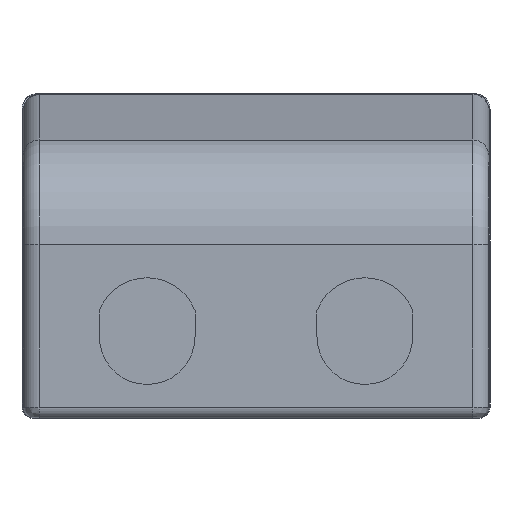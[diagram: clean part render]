
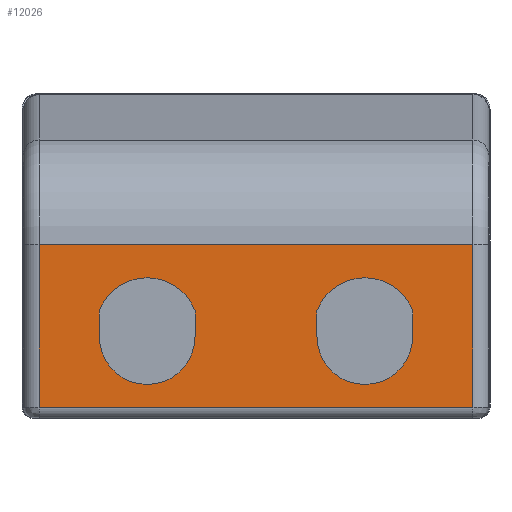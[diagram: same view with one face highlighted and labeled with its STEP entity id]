
A CAD part, left-side view. The second image highlights one B-rep face of the part: STEP entity #12026.
In plain terms, the highlighted planar face has unit normal (-1, 0, 0) as drawn and (0, 0, 1) by its records, which use the part's own axes.
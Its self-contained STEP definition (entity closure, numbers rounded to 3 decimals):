
#10473=CARTESIAN_POINT('',(-10.,8.2,30.));
#10474=DIRECTION('',(0.,0.,1.));
#10475=DIRECTION('',(0.936,0.352,0.));
#10476=AXIS2_PLACEMENT_3D('',#10473,#10474,#10475);
#10478=DIRECTION('',(0.,-1.,0.));
#10479=VECTOR('',#10478,2.352);
#10480=CARTESIAN_POINT('',(-14.4,9.852,30.));
#10481=LINE('',#10480,#10479);
#10482=CARTESIAN_POINT('',(-10.,7.5,30.));
#10483=DIRECTION('',(0.,0.,1.));
#10484=DIRECTION('',(-1.,0.,0.));
#10485=AXIS2_PLACEMENT_3D('',#10482,#10483,#10484);
#10487=DIRECTION('',(0.,1.,0.));
#10488=VECTOR('',#10487,2.352);
#10489=CARTESIAN_POINT('',(-5.6,7.5,30.));
#10490=LINE('',#10489,#10488);
#10491=CARTESIAN_POINT('',(10.,8.2,30.));
#10492=DIRECTION('',(0.,0.,1.));
#10493=DIRECTION('',(0.936,0.352,0.));
#10494=AXIS2_PLACEMENT_3D('',#10491,#10492,#10493);
#10496=DIRECTION('',(0.,-1.,0.));
#10497=VECTOR('',#10496,2.352);
#10498=CARTESIAN_POINT('',(5.6,9.852,30.));
#10499=LINE('',#10498,#10497);
#10500=CARTESIAN_POINT('',(10.,7.5,30.));
#10501=DIRECTION('',(0.,0.,1.));
#10502=DIRECTION('',(-1.,0.,0.));
#10503=AXIS2_PLACEMENT_3D('',#10500,#10501,#10502);
#10505=DIRECTION('',(0.,1.,0.));
#10506=VECTOR('',#10505,2.352);
#10507=CARTESIAN_POINT('',(14.4,7.5,30.));
#10508=LINE('',#10507,#10506);
#10509=DIRECTION('',(1.,0.,0.));
#10510=VECTOR('',#10509,39.8);
#10511=CARTESIAN_POINT('',(-19.9,1.,30.));
#10512=LINE('',#10511,#10510);
#10513=DIRECTION('',(0.,1.,0.));
#10514=VECTOR('',#10513,14.957);
#10515=CARTESIAN_POINT('',(-19.9,1.,30.));
#10516=LINE('',#10515,#10514);
#10517=DIRECTION('',(1.,0.,0.));
#10518=VECTOR('',#10517,39.8);
#10519=CARTESIAN_POINT('',(-19.9,15.957,30.));
#10520=LINE('',#10519,#10518);
#10521=DIRECTION('',(0.,-1.,0.));
#10522=VECTOR('',#10521,14.957);
#10523=CARTESIAN_POINT('',(19.9,15.957,30.));
#10524=LINE('',#10523,#10522);
#11322=CARTESIAN_POINT('',(-5.6,9.852,30.));
#11323=CARTESIAN_POINT('',(-14.4,9.852,30.));
#11324=VERTEX_POINT('',#11322);
#11325=VERTEX_POINT('',#11323);
#11326=CARTESIAN_POINT('',(-14.4,7.5,30.));
#11327=VERTEX_POINT('',#11326);
#11328=CARTESIAN_POINT('',(-5.6,7.5,30.));
#11329=VERTEX_POINT('',#11328);
#11330=CARTESIAN_POINT('',(14.4,9.852,30.));
#11331=CARTESIAN_POINT('',(5.6,9.852,30.));
#11332=VERTEX_POINT('',#11330);
#11333=VERTEX_POINT('',#11331);
#11334=CARTESIAN_POINT('',(5.6,7.5,30.));
#11335=VERTEX_POINT('',#11334);
#11336=CARTESIAN_POINT('',(14.4,7.5,30.));
#11337=VERTEX_POINT('',#11336);
#11389=CARTESIAN_POINT('',(19.9,15.957,30.));
#11391=VERTEX_POINT('',#11389);
#11408=CARTESIAN_POINT('',(-19.9,15.957,30.));
#11410=VERTEX_POINT('',#11408);
#11468=CARTESIAN_POINT('',(19.9,1.,30.));
#11469=VERTEX_POINT('',#11468);
#11472=CARTESIAN_POINT('',(-19.9,1.,30.));
#11473=VERTEX_POINT('',#11472);
#11993=CARTESIAN_POINT('',(-21.4,15.957,30.));
#11994=DIRECTION('',(0.,0.,1.));
#11995=DIRECTION('',(0.,-1.,0.));
#11996=AXIS2_PLACEMENT_3D('',#11993,#11994,#11995);
#11997=PLANE('',#11996);
#11998=ORIENTED_EDGE('',*,*,#11984,.F.);
#11999=ORIENTED_EDGE('',*,*,#11614,.T.);
#12001=ORIENTED_EDGE('',*,*,#12000,.T.);
#12003=ORIENTED_EDGE('',*,*,#12002,.T.);
#12004=EDGE_LOOP('',(#11998,#11999,#12001,#12003));
#12005=FACE_OUTER_BOUND('',#12004,.F.);
#12007=ORIENTED_EDGE('',*,*,#12006,.T.);
#12009=ORIENTED_EDGE('',*,*,#12008,.T.);
#12011=ORIENTED_EDGE('',*,*,#12010,.T.);
#12013=ORIENTED_EDGE('',*,*,#12012,.T.);
#12014=EDGE_LOOP('',(#12007,#12009,#12011,#12013));
#12015=FACE_BOUND('',#12014,.F.);
#12017=ORIENTED_EDGE('',*,*,#12016,.T.);
#12019=ORIENTED_EDGE('',*,*,#12018,.T.);
#12021=ORIENTED_EDGE('',*,*,#12020,.T.);
#12023=ORIENTED_EDGE('',*,*,#12022,.T.);
#12024=EDGE_LOOP('',(#12017,#12019,#12021,#12023));
#12025=FACE_BOUND('',#12024,.F.);
#12026=ADVANCED_FACE('',(#12005,#12015,#12025),#11997,.T.);
#10477=CIRCLE('',#10476,4.7);
#10486=CIRCLE('',#10485,4.4);
#10495=CIRCLE('',#10494,4.7);
#10504=CIRCLE('',#10503,4.4);
#11614=EDGE_CURVE('',#11473,#11410,#10516,.T.);
#11984=EDGE_CURVE('',#11473,#11469,#10512,.T.);
#12000=EDGE_CURVE('',#11410,#11391,#10520,.T.);
#12002=EDGE_CURVE('',#11391,#11469,#10524,.T.);
#12006=EDGE_CURVE('',#11332,#11333,#10495,.T.);
#12008=EDGE_CURVE('',#11333,#11335,#10499,.T.);
#12010=EDGE_CURVE('',#11335,#11337,#10504,.T.);
#12012=EDGE_CURVE('',#11337,#11332,#10508,.T.);
#12016=EDGE_CURVE('',#11324,#11325,#10477,.T.);
#12018=EDGE_CURVE('',#11325,#11327,#10481,.T.);
#12020=EDGE_CURVE('',#11327,#11329,#10486,.T.);
#12022=EDGE_CURVE('',#11329,#11324,#10490,.T.);
